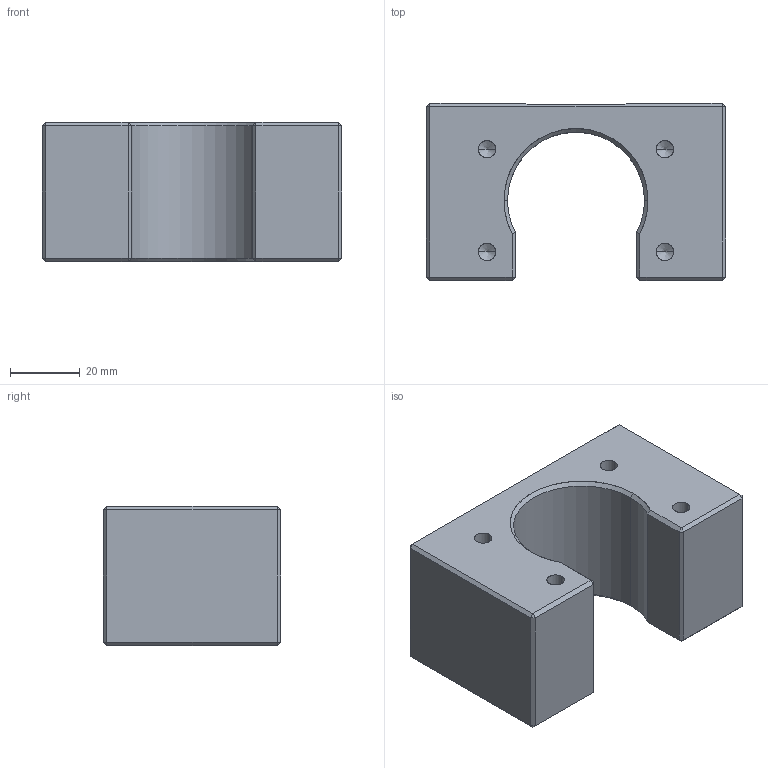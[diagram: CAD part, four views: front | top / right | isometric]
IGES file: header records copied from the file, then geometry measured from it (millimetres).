
Start section: SolidWorks IGES file using analytic representation for surfaces
Global section: file name: D:\目前進行中\MC系列螺帽座\MC2020\MC2020.IGS; native system: SolidWorks 2008; preprocessor: SolidWorks 2008; author: 070; date: 080609.110855; units: millimetre
Bounding box: 86 x 51 x 40 mm (x, y, z)
Surface area: 22911.3 mm2 (no closed solid volume)
Topology: 0 solids, 0 shells, 86 faces, 682 edges, 666 vertices
Faces by surface type: bspline 45, revolution 41
